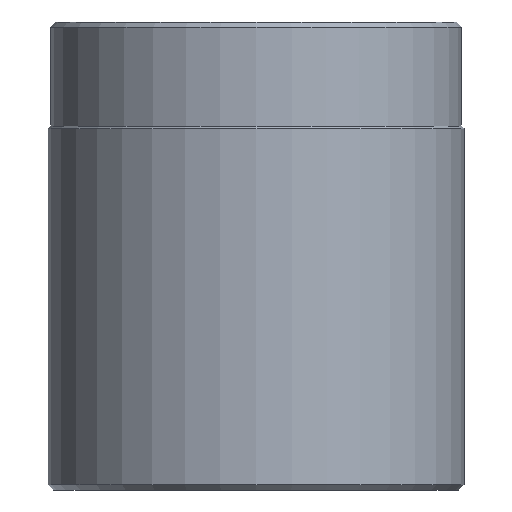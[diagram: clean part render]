
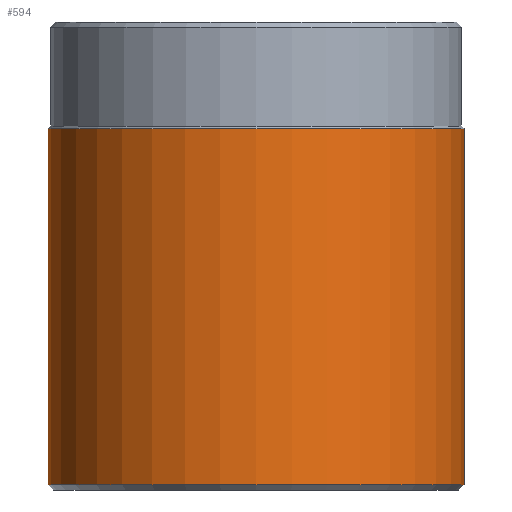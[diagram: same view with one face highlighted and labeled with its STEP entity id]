
A CAD part, front view. The second image highlights one B-rep face of the part: STEP entity #594.
In plain terms, the highlighted cylindrical face has radius 40 mm (diameter 80 mm), a partial arc.
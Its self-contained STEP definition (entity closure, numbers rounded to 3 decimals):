
#125=VERTEX_POINT(' ',#126);
#126=CARTESIAN_POINT('',(-40.,0.,1.));
#127=VERTEX_POINT(' ',#128);
#128=CARTESIAN_POINT('',(40.,0.,1.));
#129=VERTEX_POINT(' ',#130);
#130=CARTESIAN_POINT('',(-40.,0.,69.5));
#131=VERTEX_POINT(' ',#132);
#132=CARTESIAN_POINT('',(40.,0.,69.5));
#321=CIRCLE('',#322,40.);
#322=AXIS2_PLACEMENT_3D('',#323,#324,#325);
#323=CARTESIAN_POINT('',(0.,0.,1.));
#324=DIRECTION('',(0.,0.,1.));
#325=DIRECTION('',(0.,1.,0.));
#326=EDGE_CURVE(' ',#125,#127,#321,.T.);
#327=LINE('',#328,#329);
#328=CARTESIAN_POINT('',(-40.,0.,1.));
#329=VECTOR('',#330,1.);
#330=DIRECTION('',(0.,0.,1.));
#331=EDGE_CURVE(' ',#125,#129,#327,.T.);
#338=LINE('',#339,#340);
#339=CARTESIAN_POINT('',(40.,0.,1.));
#340=VECTOR('',#341,1.);
#341=DIRECTION('',(0.,0.,1.));
#342=EDGE_CURVE(' ',#127,#131,#338,.T.);
#343=CIRCLE('',#344,40.);
#344=AXIS2_PLACEMENT_3D('',#345,#346,#347);
#345=CARTESIAN_POINT('',(0.,0.,69.5));
#346=DIRECTION('',(0.,0.,1.));
#347=DIRECTION('',(0.,1.,0.));
#348=EDGE_CURVE(' ',#129,#131,#343,.T.);
#583=ORIENTED_EDGE('',*,*,#331,.F.);
#584=ORIENTED_EDGE('',*,*,#326,.T.);
#585=ORIENTED_EDGE('',*,*,#342,.T.);
#586=ORIENTED_EDGE('',*,*,#348,.F.);
#587=EDGE_LOOP('',(#583,#584,#585,#586));
#588=FACE_OUTER_BOUND('',#587,.T.);
#589=CYLINDRICAL_SURFACE('',#590,40.);
#590=AXIS2_PLACEMENT_3D('',#591,#592,#593);
#591=CARTESIAN_POINT('',(0.,0.,1.));
#592=DIRECTION('',(0.,0.,1.));
#593=DIRECTION('',(0.,1.,0.));
#594=ADVANCED_FACE('',(#588),#589,.T.);
